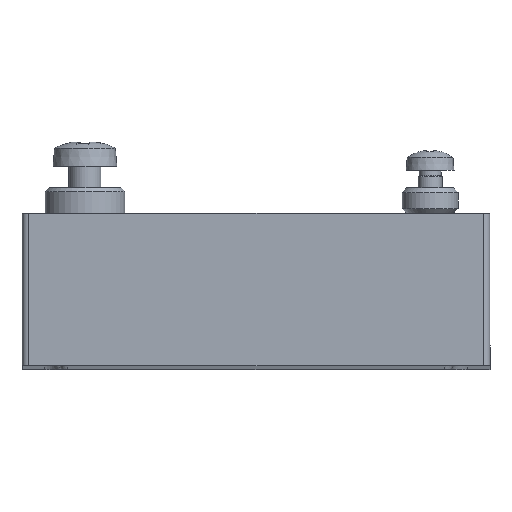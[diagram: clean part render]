
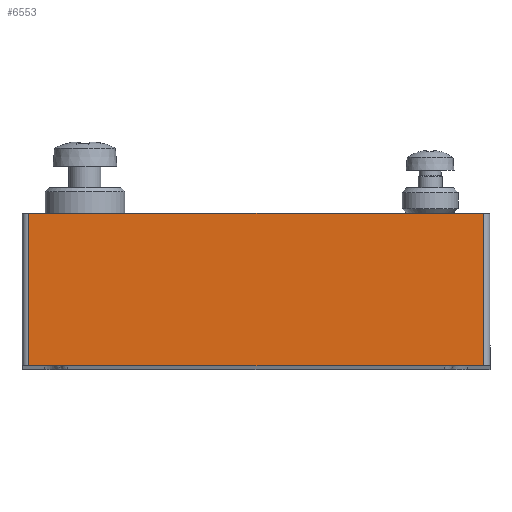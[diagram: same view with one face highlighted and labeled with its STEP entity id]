
A CAD part, front view. The second image highlights one B-rep face of the part: STEP entity #6553.
In plain terms, the highlighted planar face has unit normal (0, -1, 0).
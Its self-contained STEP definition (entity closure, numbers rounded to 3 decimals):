
#5754=CARTESIAN_POINT('',(28.42,-22.25,0.5));
#5755=VERTEX_POINT('',#5754);
#5763=CARTESIAN_POINT('',(-28.48,-22.25,0.5));
#5764=VERTEX_POINT('',#5763);
#5765=CARTESIAN_POINT('',(28.42,-22.25,0.5));
#5766=DIRECTION('',(-1.0,0.0,0.0));
#5767=VECTOR('',#5766,56.9);
#5768=LINE('',#5765,#5767);
#5769=EDGE_CURVE('',#5755,#5764,#5768,.T.);
#6512=CARTESIAN_POINT('',(28.42,-22.25,19.6));
#6513=VERTEX_POINT('',#6512);
#6521=CARTESIAN_POINT('',(28.42,-22.25,19.6));
#6522=DIRECTION('',(0.0,0.0,-1.0));
#6523=VECTOR('',#6522,19.1);
#6524=LINE('',#6521,#6523);
#6525=EDGE_CURVE('',#6513,#5755,#6524,.T.);
#6530=CARTESIAN_POINT('',(-28.23,-22.25,19.5));
#6531=DIRECTION('',(0.0,-1.0,0.0));
#6532=DIRECTION('',(0.0,0.0,-1.0));
#6533=AXIS2_PLACEMENT_3D('',#6530,#6531,#6532);
#6534=PLANE('',#6533);
#6535=ORIENTED_EDGE('',*,*,#5769,.F.);
#6536=ORIENTED_EDGE('',*,*,#6525,.F.);
#6537=CARTESIAN_POINT('',(-28.48,-22.25,19.6));
#6538=VERTEX_POINT('',#6537);
#6539=CARTESIAN_POINT('',(-28.48,-22.25,19.6));
#6540=DIRECTION('',(1.0,0.0,0.0));
#6541=VECTOR('',#6540,56.9);
#6542=LINE('',#6539,#6541);
#6543=EDGE_CURVE('',#6538,#6513,#6542,.T.);
#6544=ORIENTED_EDGE('',*,*,#6543,.F.);
#6545=CARTESIAN_POINT('',(-28.48,-22.25,19.6));
#6546=DIRECTION('',(0.0,0.0,-1.0));
#6547=VECTOR('',#6546,19.1);
#6548=LINE('',#6545,#6547);
#6549=EDGE_CURVE('',#6538,#5764,#6548,.T.);
#6550=ORIENTED_EDGE('',*,*,#6549,.T.);
#6551=EDGE_LOOP('',(#6535,#6536,#6544,#6550));
#6552=FACE_OUTER_BOUND('',#6551,.T.);
#6553=ADVANCED_FACE('',(#6552),#6534,.T.);
